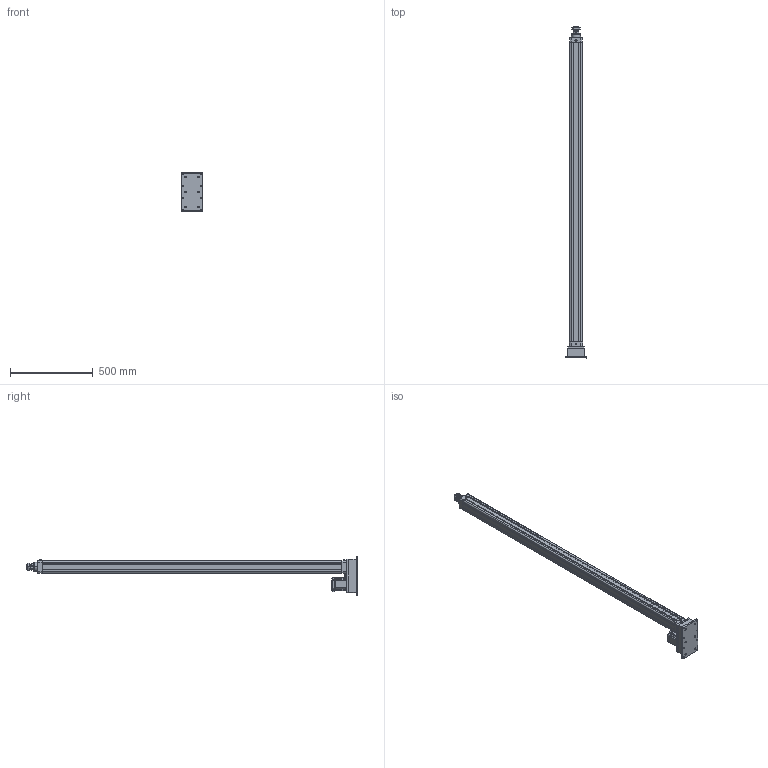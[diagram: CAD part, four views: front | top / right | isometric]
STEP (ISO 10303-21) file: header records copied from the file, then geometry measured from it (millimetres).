
FILE_DESCRIPTION((''),'2;1');
FILE_NAME('HE63-D-100-X1_ASM','2020-04-29T',('ASUS20200'),(''),'CREO PARAMETRIC BY PTC INC, 2014190','CREO PARAMETRIC BY PTC INC, 2014190','');
FILE_SCHEMA(('CONFIG_CONTROL_DESIGN'));
Length unit declared in the file: millimetre
Products named in the file (23): HE63-D-P-001-X1; HE63-D-P-002-X1; HE63-D-P-003-X1; LGLM-M8-22; SLM-01; YZ-M6X1; JDB405030; HE63-P-010-X1-80N; _MHMF082L1A2; MHMF082L1A2M2_1_ASM; JX6X6X25; HE63-P-012-X1; HE63-P-013-X1; M6X60; JM-M8; LM-M8-15; LM-M8X1-25; HE63-D-P-005-X1; HE63-D-P-004-X1; HE63-D-P-008-X1; TD-6; M6X25; HE63-D-100-X1_ASM
Assembly tree (40 placements, depth 3):
  HE63-D-100-X1_ASM
    HE63-D-P-001-X1
    HE63-D-P-002-X1
    HE63-D-P-003-X1
    LGLM-M8-22  x8
    SLM-01
    YZ-M6X1
    JDB405030
    HE63-P-010-X1-80N
    MHMF082L1A2M2_1_ASM
      _MHMF082L1A2
    JX6X6X25
    HE63-P-012-X1
    HE63-P-013-X1
    M6X60  x6
    JM-M8
    LM-M8-15
    LM-M8X1-25
    HE63-D-P-005-X1
    HE63-D-P-004-X1
    HE63-D-P-008-X1
    TD-6  x4
    M6X25  x4
Bounding box: 130 x 2007 x 230 mm (x, y, z)
Volume: 5304937.1 mm3; surface area: 1632731.5 mm2
Topology: 39 solids, 69 shells, 2066 faces, 4931 edges, 3038 vertices
Faces by surface type: plane 775, cylinder 605, cone 551, torus 102, sphere 30, bspline 3
Entity records: 48664 total; most frequent: CARTESIAN_POINT 9318, DIRECTION 8747, ORIENTED_EDGE 7614, EDGE_CURVE 3857, AXIS2_PLACEMENT_3D 3375, VERTEX_POINT 2385, VECTOR 1997, LINE 1997
